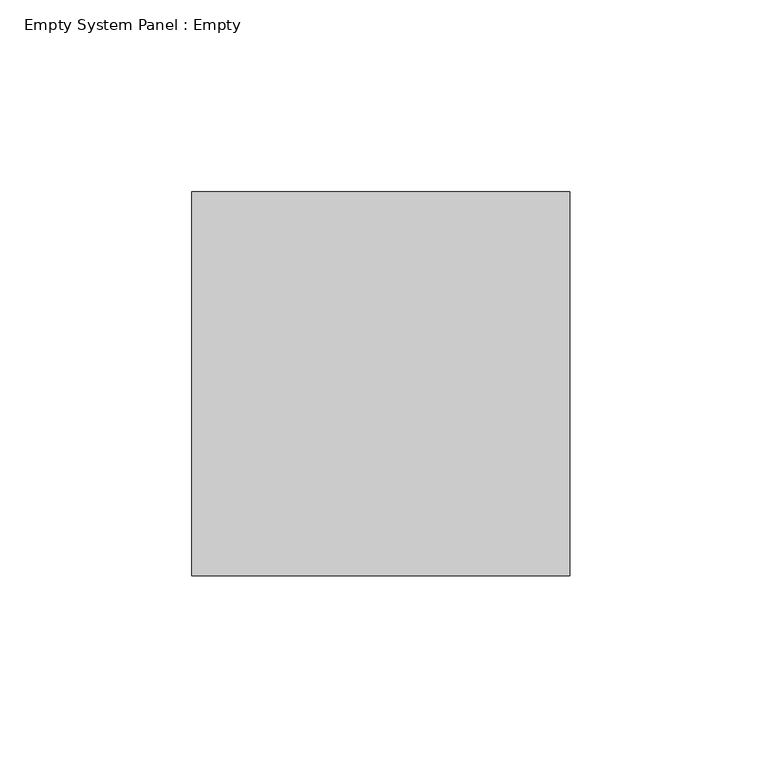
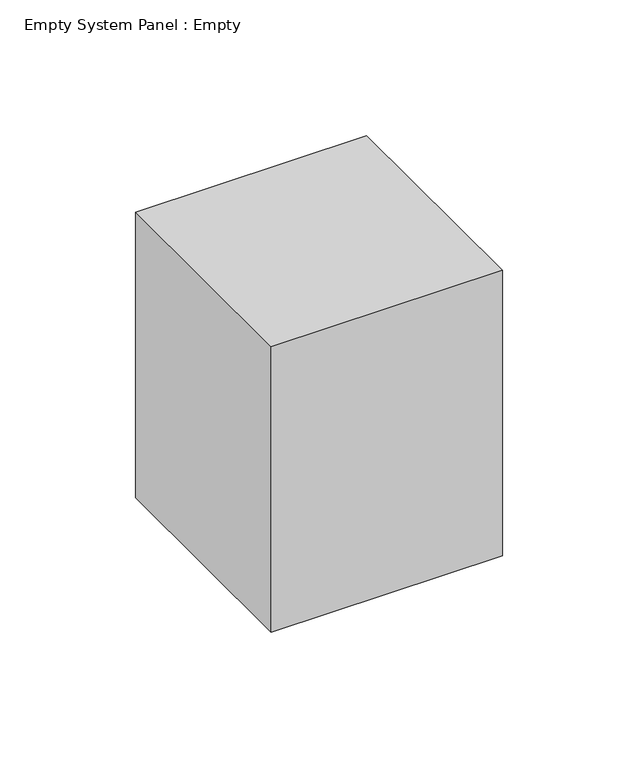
"""IFC4 building model written with IfcOpenShell, lengths in millimetres: plate geometry, Empty System Panel : Empty."""

import ifcopenshell
import ifcopenshell.guid

model = None  # the IFC model being written
_history = None  # IfcOwnerHistory: only IFC2X3 demands one
_inside = {}  # id of a spatial element -> (the spatial element, [elements in it])
_under = {}  # id of a project, library or spatial element -> (it, [spatial elements below it])
_declared = {}  # id of a project -> (the project, [libraries it declares])
_typed = {}  # id of a type object -> (the type object, [elements of that type])
_made_of = {}  # id of a material, layer set ... -> (it, [elements and type objects made of it])


def new_model(schema):
    """Start an empty IFC model of exactly this schema.

    Asked for "IFC4X3", IfcOpenShell would pick the latest addendum, in which some entities
    have other attributes; the version numbers below select the first issue.
    IFC2X3 requires an IfcOwnerHistory on every rooted entity: one is made here for all.
    """
    global model, _history
    if schema == "IFC4X3":
        model = ifcopenshell.file(schema_version=(4, 3, 0, 0))
    else:
        model = ifcopenshell.file(schema=schema)
    _inside.clear()
    _under.clear()
    _declared.clear()
    _typed.clear()
    _made_of.clear()
    _history = None
    if model.schema == "IFC2X3":
        org = make("IfcOrganization", Name="unknown")
        user = make(
            "IfcPersonAndOrganization",
            ThePerson=make("IfcPerson", FamilyName="unknown"),
            TheOrganization=org,
        )
        app = make(
            "IfcApplication",
            ApplicationDeveloper=org,
            Version="unknown",
            ApplicationFullName="unknown",
            ApplicationIdentifier="unknown",
        )
        _history = make(
            "IfcOwnerHistory",
            OwningUser=user,
            OwningApplication=app,
            ChangeAction="ADDED",
            CreationDate=0,
        )
    return model


def make(cls, **values):
    """One entity of the class cls with the attributes given. An attribute that is None is left unset."""
    return model.create_entity(
        cls, **{name: value for name, value in values.items() if value is not None}
    )


def rooted(cls, **values):
    """An entity with a GlobalId (a new one), such as an element, a storey or a relation."""
    return make(cls, GlobalId=ifcopenshell.guid.new(), OwnerHistory=_history, **values)


def si_unit(unit_type, name, prefix=None):
    """IfcSIUnit, for example si_unit("LENGTHUNIT", "METRE", prefix="MILLI")."""
    return make("IfcSIUnit", UnitType=unit_type, Prefix=prefix, Name=name)


def assignment(units):
    """IfcUnitAssignment: the units of a project."""
    return None if units is None else make("IfcUnitAssignment", Units=units)


def point(xyz):
    """IfcCartesianPoint."""
    return None if xyz is None else make("IfcCartesianPoint", Coordinates=xyz)


def direction(xyz):
    """IfcDirection."""
    return None if xyz is None else make("IfcDirection", DirectionRatios=xyz)


def frame(location, z_axis=None, x_axis=None):
    """IfcAxis2Placement3D, a coordinate frame: its origin and axes. An axis left out is left unset."""
    return make(
        "IfcAxis2Placement3D",
        Location=point(location),
        Axis=direction(z_axis),
        RefDirection=direction(x_axis),
    )


def origin():
    """The frame at (0, 0, 0) with its axes left unset."""
    return frame((0.0, 0.0, 0.0))


def origin_with_axes():
    """The frame at (0, 0, 0) with the z axis (0, 0, 1) and the x axis (1, 0, 0) written out."""
    return frame((0.0, 0.0, 0.0), z_axis=(0.0, 0.0, 1.0), x_axis=(1.0, 0.0, 0.0))


def place(relative_to, where):
    """IfcLocalPlacement: puts the frame where relative to a parent placement (None: the world)."""
    return make(
        "IfcLocalPlacement", PlacementRelTo=relative_to, RelativePlacement=where
    )


def context(
    kind, dimensions, precision=None, world=None, true_north=None, identifier=None
):
    """IfcGeometricRepresentationContext, for example the 3D "Model" context."""
    return make(
        "IfcGeometricRepresentationContext",
        ContextIdentifier=identifier,
        ContextType=kind,
        CoordinateSpaceDimension=dimensions,
        Precision=precision,
        WorldCoordinateSystem=world,
        TrueNorth=true_north,
    )


def project(units=None, contexts=None):
    """IfcProject with its units and contexts."""
    return rooted(
        "IfcProject",
        Name="project",
        RepresentationContexts=contexts,
        UnitsInContext=assignment(units),
    )


def spatial(cls, under=None, at=None, **own):
    """A site, building, storey or space (cls), placed at a placement, below another one or the project."""
    s = rooted(cls, ObjectPlacement=at, **own)
    if under is not None:
        _under.setdefault(under.id(), (under, []))[1].append(s)
    return s


def polyline(points):
    """IfcPolyline through the points."""
    return make("IfcPolyline", Points=[point(p) for p in points])


def outline(outer, holes=None, kind="AREA"):
    """IfcArbitraryClosedProfileDef: a profile drawn as a closed curve; with holes, ...WithVoids."""
    if holes is None:
        return make("IfcArbitraryClosedProfileDef", ProfileType=kind, OuterCurve=outer)
    return make(
        "IfcArbitraryProfileDefWithVoids",
        ProfileType=kind,
        OuterCurve=outer,
        InnerCurves=holes,
    )


def extrude(swept, where, along, depth):
    """IfcExtrudedAreaSolid: the profile swept, set in the frame where, extruded along a direction by depth."""
    return make(
        "IfcExtrudedAreaSolid",
        SweptArea=swept,
        Position=where,
        ExtrudedDirection=direction(along),
        Depth=depth,
    )


def shape(context_of_items, identifier, shape_type, items):
    """IfcShapeRepresentation: the items that make up one representation, for example the "Body"."""
    return make(
        "IfcShapeRepresentation",
        ContextOfItems=context_of_items,
        RepresentationIdentifier=identifier,
        RepresentationType=shape_type,
        Items=items,
    )


def source(mapping_origin, context_of_items, identifier, shape_type, items):
    """IfcRepresentationMap: a shape defined once, which mapped items show again and again."""
    return make(
        "IfcRepresentationMap",
        MappingOrigin=mapping_origin,
        MappedRepresentation=shape(context_of_items, identifier, shape_type, items),
    )


def transform(
    local_origin,
    x_axis=None,
    y_axis=None,
    z_axis=None,
    scale=None,
    scale2=None,
    scale3=None,
    uniform=True,
):
    """IfcCartesianTransformationOperator3D, or its non-uniform kind. x_axis, y_axis, z_axis: its Axis1, 2, 3."""
    if uniform:
        return make(
            "IfcCartesianTransformationOperator3D",
            Axis1=direction(x_axis),
            Axis2=direction(y_axis),
            LocalOrigin=point(local_origin),
            Scale=scale,
            Axis3=direction(z_axis),
        )
    return make(
        "IfcCartesianTransformationOperator3DnonUniform",
        Axis1=direction(x_axis),
        Axis2=direction(y_axis),
        LocalOrigin=point(local_origin),
        Scale=scale,
        Axis3=direction(z_axis),
        Scale2=scale2,
        Scale3=scale3,
    )


def mapped(mapping_source, mapping_target):
    """IfcMappedItem: shows the shape of a source again, moved by a transform."""
    return make(
        "IfcMappedItem", MappingSource=mapping_source, MappingTarget=mapping_target
    )


def made_of(thing, what):
    """Note that an element or type object is made of a material, layer set ...; save() writes the relation."""
    if what is not None:
        _made_of.setdefault(what.id(), (what, []))[1].append(thing)
    return thing


def element(
    cls,
    number,
    at=None,
    inside=None,
    cuts=None,
    type_object=None,
    material=None,
    context=None,
    identifier="Body",
    shape_type=None,
    held_by="IfcProductDefinitionShape",
    body=None,
    shapes=None,
    **own,
):
    """One element of the class cls, such as IfcWall. Its Tag is "e" and its number.

    at: its placement. inside: the storey or other place that contains it. cuts: it is an
    opening in that element (IfcRelVoidsElement). A single representation is given by context,
    identifier, shape_type and body (its items); several are given by shapes. held_by: the class
    of the entity that holds the representations. save() writes the other relations.
    """
    e = rooted(cls, Tag="e%d" % number, ObjectPlacement=at, **own)
    if body is not None:
        shapes = [shape(context, identifier, shape_type, body)]
    if shapes is not None:
        e.Representation = make(held_by, Representations=shapes)
    if inside is not None:
        _inside.setdefault(inside.id(), (inside, []))[1].append(e)
    if cuts is not None:
        rooted(
            "IfcRelVoidsElement", RelatingBuildingElement=cuts, RelatedOpeningElement=e
        )
    if type_object is not None:
        _typed.setdefault(type_object.id(), (type_object, []))[1].append(e)
    return made_of(e, material)


def aggregate(whole, parts):
    """IfcRelAggregates: a whole, such as a stair, and the parts it consists of."""
    return rooted("IfcRelAggregates", RelatingObject=whole, RelatedObjects=parts)


def save(model, path):
    """Write the relations noted so far, then the file.

    IfcRelAggregates (storeys below a building ...), IfcRelContainedInSpatialStructure (elements
    in a storey), IfcRelDefinesByType, IfcRelAssociatesMaterial and IfcRelDeclares: one each for
    every whole, place, type object, material and project.
    """
    for whole, parts in _under.values():
        aggregate(whole, parts)
    for where, things in _inside.values():
        rooted(
            "IfcRelContainedInSpatialStructure",
            RelatedElements=things,
            RelatingStructure=where,
        )
    for kind, things in _typed.values():
        rooted("IfcRelDefinesByType", RelatedObjects=things, RelatingType=kind)
    for what, things in _made_of.values():
        rooted("IfcRelAssociatesMaterial", RelatedObjects=things, RelatingMaterial=what)
    for by, libraries in _declared.values():
        rooted("IfcRelDeclares", RelatingContext=by, RelatedDefinitions=libraries)
    model.write(path)


def empty_system_panel_empty_d42472a2(model_context):
    return source(origin(), model_context, "Body", "SweptSolid", [
        extrude(outline(polyline([(49.1878048, 50.0), (-49.1878048, 50.0), (-49.1878048, 150.0), (49.1878048, 150.0), (49.1878048, 50.0)])), origin_with_axes(), (0.0, 0.0, 1.0), 128.37561),
    ])


if __name__ == "__main__":
    model = new_model("IFC4")
    model_context = context("Model", 3, world=origin())
    ifc_project = project(units=[si_unit("LENGTHUNIT", "METRE", prefix="MILLI")], contexts=[model_context])
    site = spatial("IfcSite", under=ifc_project)
    building = spatial("IfcBuilding", under=site)
    placement = place(None, origin())
    empty_system_panel_empty_shape = empty_system_panel_empty_d42472a2(model_context)
    element("IfcPlate", 1, ObjectType="Empty System Panel : Empty", at=placement, inside=building, context=model_context, shape_type="MappedRepresentation", body=[
        mapped(empty_system_panel_empty_shape, transform((0.0, 0.0, 0.0), x_axis=(1.0, 0.0, 0.0), y_axis=(0.0, 1.0, 0.0), z_axis=(0.0, 0.0, 1.0))),
    ])
    save(model, "model.ifc")
